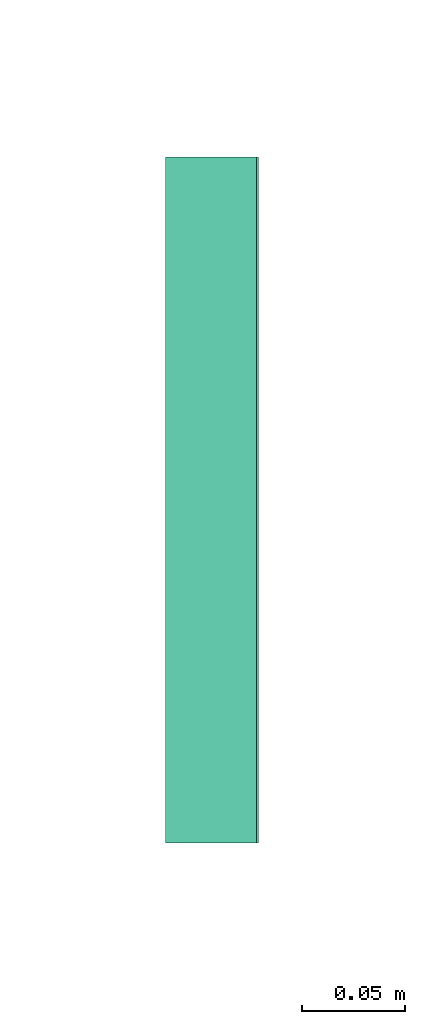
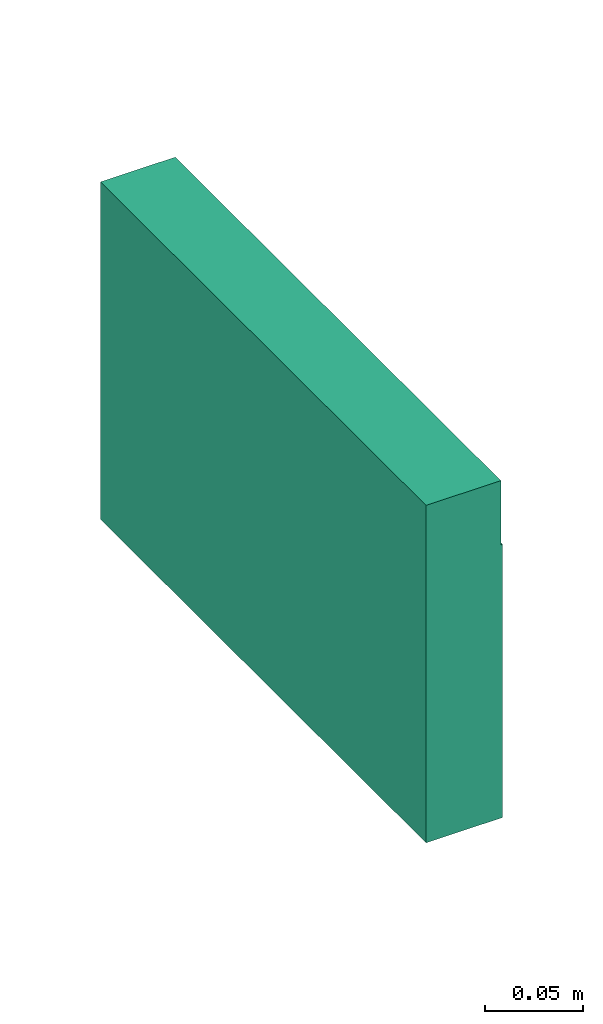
# One storey, part 1 of 4: 1 flow terminal.
"""IFC2X3 building model written with IfcOpenShell, lengths in millimetres."""

from ifc_helpers import new_model, entity, si_unit, converted_unit, derived_unit, direction, frame, frame_2d, origin, origin_2d_with_axis, place, context, subcontext, project, spatial, polyline, circle_curve, parameter, trimmed, segment, composite_curve, rectangle, circle, outline, extrude, source, transform, mapped, material, material_list, type_object, element, save


model = new_model("IFC2X3")

# Units and contexts
model_context = context("Model", 3, precision=0.01, world=frame((0.0, 4.29681676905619e-09, 0.0)), true_north=direction((4.01073788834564e-13, 1.0)))
plan_context = context("Plan", 3, precision=0.01, world=frame((0.0, 4.29681676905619e-09, 0.0)), true_north=direction((4.01073788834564e-13, 1.0)))
body_context = subcontext(model_context, "Body", "Model", "MODEL_VIEW")
ifc_project = project(units=[converted_unit("PLANEANGLEUNIT", "DEGREE", entity("IfcPositiveLengthMeasure", 0.0174532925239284), si_unit("PLANEANGLEUNIT", "RADIAN"), dimensions=[0, 0, 0, 0, 0, 0, 0]), si_unit("AREAUNIT", "SQUARE_METRE"), si_unit("LENGTHUNIT", "METRE", prefix="MILLI"), si_unit("MASSUNIT", "GRAM", prefix="KILO"), si_unit("POWERUNIT", "WATT"), si_unit("PRESSUREUNIT", "PASCAL"), si_unit("FORCEUNIT", "NEWTON", prefix="KILO"), si_unit("ELECTRICVOLTAGEUNIT", "VOLT"), si_unit("ELECTRICCURRENTUNIT", "AMPERE"), si_unit("THERMODYNAMICTEMPERATUREUNIT", "DEGREE_CELSIUS"), si_unit("TIMEUNIT", "SECOND"), si_unit("VOLUMEUNIT", "CUBIC_METRE"), derived_unit("LINEARVELOCITYUNIT", [(si_unit("LENGTHUNIT", "METRE"), 1), (si_unit("TIMEUNIT", "SECOND"), -1)]), derived_unit("VOLUMETRICFLOWRATEUNIT", [(si_unit("VOLUMEUNIT", "CUBIC_METRE"), 1), (si_unit("TIMEUNIT", "SECOND"), -1)]), derived_unit("THERMALTRANSMITTANCEUNIT", [(si_unit("POWERUNIT", "WATT"), 1), (si_unit("THERMODYNAMICTEMPERATUREUNIT", "KELVIN"), -1), (si_unit("AREAUNIT", "SQUARE_METRE"), -1)]), derived_unit("SOUNDPRESSUREUNIT", [(si_unit("PRESSUREUNIT", "PASCAL"), 1)])], contexts=[model_context, plan_context])

# Site, building, storey
site_placement = place(None, frame((0.0, -4.29681676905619e-09, 0.0), z_axis=(0.0, 0.0, 1.0), x_axis=(1.0, 0.0, 0.0)))
site = spatial("IfcSite", under=ifc_project, at=site_placement, Name="Default", CompositionType="ELEMENT")
building_placement = place(site_placement, frame((0.0, 4.29681676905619e-09, 0.0), z_axis=(0.0, 0.0, 1.0), x_axis=(1.0, 0.0, 0.0)))
building = spatial("IfcBuilding", under=site, at=building_placement, CompositionType="ELEMENT")
storey_placement = place(building_placement, frame((0.0, 0.0, 210900.0), z_axis=(0.0, 0.0, 1.0), x_axis=(1.0, 0.0, 0.0)))
storey = spatial("IfcBuildingStorey", under=building, at=storey_placement, Name="Nivå F", CompositionType="ELEMENT", Elevation=210900.0)

# Flow terminal
ifc_material_1 = material(Name="Light Source Hvit")
ifc_material_2 = material(Name="Light Source Grønn")
ifc_material_3 = material(Name="<Unnamed>")
ifc_material_list = material_list([ifc_material_1, ifc_material_2, ifc_material_3])
light_fixture_type = type_object("IfcLightFixtureType", Name="IB7323 Markeringslys ensidig 32 meter leseavstand vegg:IB7323 Zumtobel Crossign 160 AB LED NDA", PredefinedType="NOTDEFINED", material=ifc_material_list)
shared_shape = source(origin(), body_context, "Body", "SweptSolid", [
    extrude(outline(polyline([(-9.94071838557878, -40.8929275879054), (20.6582999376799, -40.8929275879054), (61.5512275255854, 0.0), (20.6582999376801, 40.8929275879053), (-9.94071838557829, 40.8929275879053), (17.4135315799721, 13.5386776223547), (-58.9067268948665, 13.5386776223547), (-58.9067268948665, -13.5386776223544), (17.4135315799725, -13.5386776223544), (-9.94071838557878, -40.8929275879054)])), frame((-68.0, 43.0, -18.677749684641), z_axis=(0.0, 1.0, 0.0), x_axis=(0.0, 0.0, -1.0)), (0.0, 0.0, 1.0), 2.0),
    extrude(outline(composite_curve([segment(trimmed(circle_curve(origin_2d_with_axis(), 70.0), [parameter(180.0)], [parameter(360.0)], True, "PARAMETER"), True, "CONTINUOUS"), segment(trimmed(circle_curve(origin_2d_with_axis(), 70.0), [parameter(0.0)], [parameter(180.0)], True, "PARAMETER"), True, "CONTINUOUS")], self_intersect=False), holes=[polyline([(60.2289772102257, 0.0), (19.3360496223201, -40.8929275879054), (-11.2629687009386, -40.8929275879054), (16.0912812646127, -13.5386776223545), (-60.2289772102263, -13.5386776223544), (-60.2289772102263, 13.5386776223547), (16.0912812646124, 13.5386776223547), (-11.262968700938, 40.8929275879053), (19.3360496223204, 40.8929275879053), (60.2289772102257, 0.0)])]), frame((-68.0, 43.0, -20.0), z_axis=(0.0, 1.0, 0.0), x_axis=(0.0, 0.0, -1.0)), (0.0, 0.0, 1.0), 2.0),
    extrude(outline(polyline([(-85.0, -166.0), (85.0, -166.0), (85.0, 166.0), (-85.0, 166.0), (-85.0, -166.0)]), holes=[polyline([(-46.0, 79.0), (-46.0, 121.0), (-34.0, 121.0), (-34.0, 91.0), (-2.58359213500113, 91.0), (26.0, 76.7082039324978), (26.0, 89.6028577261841), (8.91302546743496, 99.8550424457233), (15.0869745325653, 110.144957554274), (38.0, 96.3971422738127), (38.0, 57.0), (36.9923017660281, 53.67179882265), (27.2111025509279, 39.0), (14.0, 39.0), (14.0, 21.0), (2.0, 21.0), (2.0, 51.0), (22.2792226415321, 51.0), (-6.84828493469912, 69.2046922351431), (-54.5419187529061, 40.5474658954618), (-60.8224348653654, 51.0), (-14.2226093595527, 79.0), (-46.0, 79.0)]), composite_curve([segment(trimmed(circle_curve(frame_2d((52.0, 53.0), x_axis=(0.0, -1.0)), 14.0), [parameter(3.05333249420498e-13)], [parameter(180.0)], True, "PARAMETER"), False, "CONTINUOUS"), segment(trimmed(circle_curve(frame_2d((52.0, 53.0), x_axis=(0.0, -1.0)), 14.0), [parameter(180.0)], [parameter(360.0)], True, "PARAMETER"), False, "CONTINUOUS")], self_intersect=False), composite_curve([segment(trimmed(circle_curve(frame_2d((0.0, -68.0), x_axis=(0.0, -1.0)), 70.0), [parameter(3.05333249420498e-13)], [parameter(180.0)], True, "PARAMETER"), False, "CONTINUOUS"), segment(trimmed(circle_curve(frame_2d((0.0, -68.0), x_axis=(0.0, -1.0)), 70.0), [parameter(180.0)], [parameter(0.0)], True, "PARAMETER"), False, "CONTINUOUS")], self_intersect=False)]), frame((0.0, 43.0, -20.0), z_axis=(0.0, 1.0, 0.0), x_axis=(0.0, 0.0, 1.0)), (0.0, 0.0, 1.0), 2.0),
    extrude(circle(Radius=14.0, at=frame_2d((4.08568319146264e-29, -1.26898491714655e-14), x_axis=(1.0, 0.0))), frame((53.0, 43.0, 32.0), z_axis=(0.0, 1.0, 0.0), x_axis=(-1.0, 0.0, 0.0)), (0.0, 0.0, 1.0), 2.0),
    extrude(outline(polyline([(32.7028994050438, -50.6303563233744), (44.7028994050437, -50.6303563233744), (44.7028994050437, -8.63035632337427), (12.9255087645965, -8.63035632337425), (59.5253342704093, 19.3696436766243), (53.24481815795, 29.8221777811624), (5.55118433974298, 1.16495144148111), (-23.5763232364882, 19.3696436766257), (-3.29710059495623, 19.3696436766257), (-3.29710059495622, 49.3696436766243), (-15.2971005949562, 49.3696436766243), (-15.2971005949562, 31.3696436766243), (-28.508203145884, 31.3696436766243), (-38.2894023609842, 16.6978448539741), (-39.2971005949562, 13.3696436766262), (-39.2971005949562, -26.0274985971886), (-16.3840751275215, -39.7753138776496), (-10.2101260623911, -29.4853987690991), (-27.2971005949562, -19.2332140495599), (-27.2971005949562, -6.33856025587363), (1.28649154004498, -20.6303563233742), (32.7028994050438, -20.6303563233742), (32.7028994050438, -50.6303563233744)])), frame((70.3696436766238, 43.0, -21.2971005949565), z_axis=(0.0, 1.0, 0.0), x_axis=(0.0, 0.0, -1.0)), (0.0, 0.0, 1.0), 2.0),
    extrude(rectangle(XDim=332.0, YDim=44.0, at=frame_2d((0.0, 1.77635683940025e-15), x_axis=(1.0, 0.0))), frame((0.0, 22.0, -105.0)), (0.0, 0.0, 1.0), 210.0),
])
flow_terminal_placement = place(storey_placement, frame((533445.259257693, 447523.413359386, 2400.0), z_axis=(0.0, 0.0, 1.0), x_axis=(0.0, -1.0, 0.0)))
element("IfcFlowTerminal", 1, at=flow_terminal_placement, inside=storey, type_object=light_fixture_type, material=ifc_material_list, Name="IB7323 Markeringslys ensidig 32 meter leseavstand vegg:IB7323 Zumtobel Crossign 160 AB LED NDA", ObjectType="IB7323 Markeringslys ensidig 32 meter leseavstand vegg:IB7323 Zumtobel Crossign 160 AB LED NDA", context=body_context, shape_type="MappedRepresentation", body=[
    mapped(shared_shape, transform((0.0, 0.0, 0.0), scale=1.0)),
])

save(model, "model.ifc")
